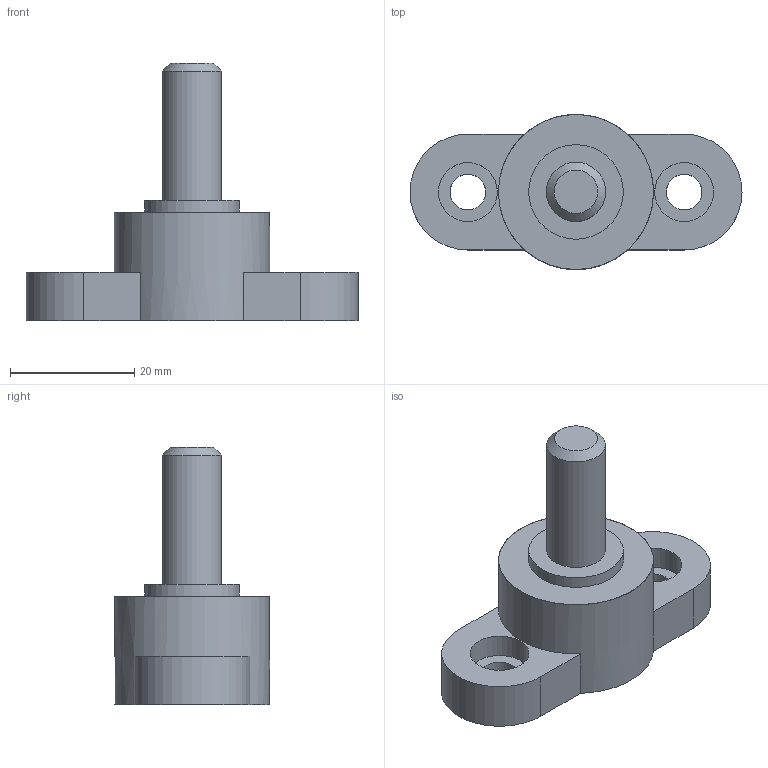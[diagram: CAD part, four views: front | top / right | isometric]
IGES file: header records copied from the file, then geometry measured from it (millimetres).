
Global section: file name: No Iges File Name specified; native system: AutoDesk Inventor R5.0; preprocessor: AutoDesk Inventor Iges Exporter R5.0; author: No Author specified; organization: No Organization specified; date: 20040120.101228; units: inch
Bounding box: 53.5 x 25 x 41.5 mm (x, y, z)
Surface area: 5138.6 mm2 (no closed solid volume)
Topology: 0 solids, 0 shells, 23 faces, 85 edges, 77 vertices
Faces by surface type: plane 11, bspline 6, revolution 6
